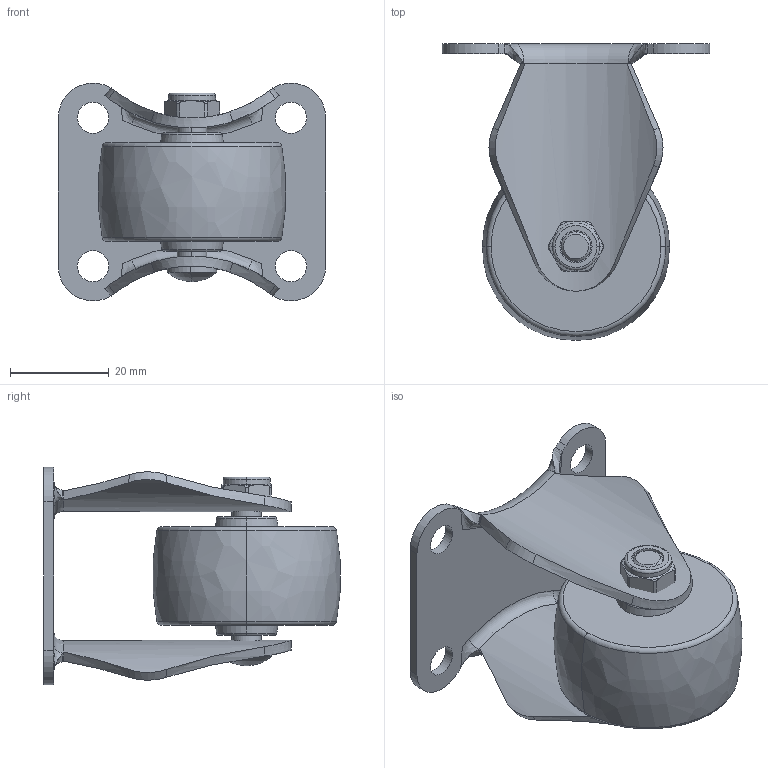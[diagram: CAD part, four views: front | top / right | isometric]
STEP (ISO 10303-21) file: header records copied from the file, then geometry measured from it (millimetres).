
FILE_DESCRIPTION((''),'2;1');
FILE_NAME('261015-2615-83_ASM','2019-12-13T',('L'),(''),'PRO/ENGINEER BY PARAMETRIC TECHNOLOGY CORPORATION, 2010280','PRO/ENGINEER BY PARAMETRIC TECHNOLOGY CORPORATION, 2010280','');
FILE_SCHEMA(('CONFIG_CONTROL_DESIGN'));
Length unit declared in the file: millimetre
Products named in the file (5): 261015; 2615-83; 2610-020; 2610-031; 261015-2615-83_ASM
Assembly tree (4 placements, depth 2):
  261015-2615-83_ASM
    261015
    2615-83
    2610-020
    2610-031
Bounding box: 54 x 59.9 x 44 mm (x, y, z)
Volume: 31705.4 mm3; surface area: 15615.2 mm2
Topology: 4 solids, 4 shells, 138 faces, 340 edges, 213 vertices
Faces by surface type: cylinder 40, bspline 32, plane 28, torus 20, cone 16, sphere 2
Entity records: 5647 total; most frequent: CARTESIAN_POINT 2352, ORIENTED_EDGE 676, DIRECTION 652, EDGE_CURVE 338, AXIS2_PLACEMENT_3D 275, VERTEX_POINT 213, CIRCLE 160, EDGE_LOOP 159
